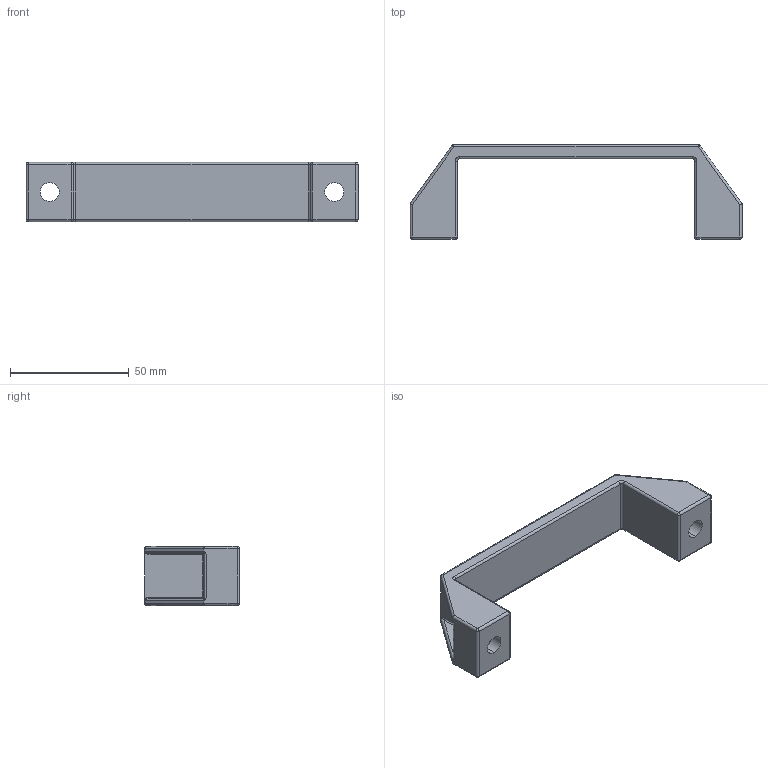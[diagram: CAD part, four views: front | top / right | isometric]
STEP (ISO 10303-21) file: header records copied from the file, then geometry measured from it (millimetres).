
FILE_DESCRIPTION (( 'STEP AP203' ), '1' );
FILE_NAME ('3010.STEP', '2016-04-16T16:04:14', ( '' ), ( '' ), 'SwSTEP 2.0', 'SolidWorks 2014', '' );
FILE_SCHEMA (( 'CONFIG_CONTROL_DESIGN' ));
Length unit declared in the file: millimetre
Products named in the file (1): 3010
Bounding box: 140 x 40 x 25 mm (x, y, z)
Volume: 31205.6 mm3; surface area: 15325.3 mm2
Topology: 1 solids, 1 shells, 124 faces, 294 edges, 156 vertices
Faces by surface type: cylinder 51, plane 24, bspline 17, torus 16, sphere 16
Entity records: 4028 total; most frequent: CARTESIAN_POINT 1330, DIRECTION 560, ORIENTED_EDGE 556, EDGE_CURVE 278, AXIS2_PLACEMENT_3D 229, VERTEX_POINT 156, EDGE_LOOP 128, ADVANCED_FACE 124
